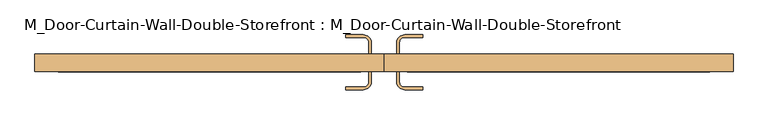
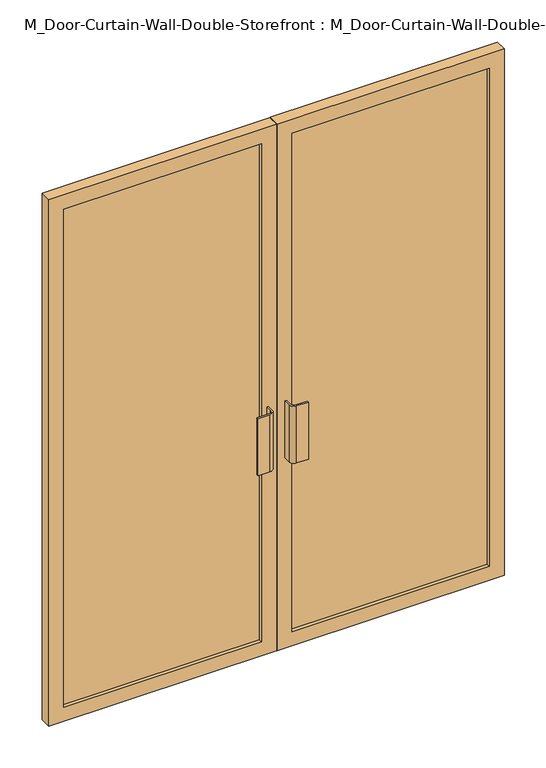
"""IFC4 building model written with IfcOpenShell, lengths in millimetres: door geometry, M_Door-Curtain-Wall-Double-Storefront : M_Door-Curtain-Wall-Double-Storefront."""

from ifc_helpers import new_model, si_unit, point, frame, frame_2d, origin, place, context, project, spatial, polyline, circle_curve, trimmed, segment, composite_curve, outline, extrude, source, transform, mapped, element, save


def m_door_curtain_wall_double_storefront_m_door_curtain_wall_1244dbcd(model_context):
    return source(origin(), model_context, "Body", "SweptSolid", [
        extrude(outline(polyline([(2110.0, 0.8168501), (0.0, 0.8168501), (0.0, 863.7581578), (2110.0, 863.7581578), (2110.0, 0.8168501)]), holes=[polyline([(2052.85, 57.9668501), (2052.85, 806.6081578), (57.15, 806.6081578), (57.15, 57.9668501), (2052.85, 57.9668501)])]), frame((0.0, -60.0, 0.0), z_axis=(0.0, 1.0, 0.0), x_axis=(0.0, 0.0, 1.0)), (0.0, 0.0, 1.0), 44.45),
        extrude(outline(polyline([(2110.0, -0.7706499), (2110.0, -863.7581578), (0.0, -863.7581578), (0.0, -0.7706499), (2110.0, -0.7706499)]), holes=[polyline([(2052.85, -806.6081578), (2052.85, -57.9206499), (57.15, -57.9206499), (57.15, -806.6081578), (2052.85, -806.6081578)])]), frame((0.0, -60.0, 0.0), z_axis=(0.0, 1.0, 0.0), x_axis=(0.0, 0.0, 1.0)), (0.0, 0.0, 1.0), 44.45),
        extrude(outline(polyline([(806.6081578, -28.25), (806.6081578, -47.3), (57.9668501, -47.3), (57.9668501, -28.25), (806.6081578, -28.25)])), frame((0.0, 0.0, 57.15), z_axis=(0.0, 0.0, 1.0), x_axis=(1.0, 0.0, 0.0)), (0.0, 0.0, 1.0), 1995.7),
        extrude(outline(polyline([(-57.9206499, -28.25), (-57.9206499, -47.3), (-806.6081578, -47.3), (-806.6081578, -28.25), (-57.9206499, -28.25)])), frame((0.0, 0.0, 57.15), z_axis=(0.0, 0.0, 1.0), x_axis=(1.0, 0.0, 0.0)), (0.0, 0.0, 1.0), 1995.7),
        extrude(outline(composite_curve([segment(polyline([(-31.7268999, 12.7), (-31.7268999, -15.55), (-38.0768999, -15.55), (-38.0768999, 12.7)]), True, "CONTINUOUS"), segment(trimmed(circle_curve(frame_2d((-50.7768999, 12.7)), 12.7), [point((-38.0768999, 12.7))], [point((-50.7768999, 25.4))], True, "CARTESIAN"), True, "CONTINUOUS"), segment(polyline([(-50.7768999, 25.4), (-95.2268999, 25.4), (-95.2268999, 31.75), (-50.7768999, 31.75)]), True, "CONTINUOUS"), segment(trimmed(circle_curve(frame_2d((-50.7768999, 12.7)), 19.05), [point((-50.7768999, 31.75))], [point((-31.7268999, 12.7))], False, "CARTESIAN"), True, "CONTINUOUS")], self_intersect=False)), frame((0.0, 0.0, 762.0), z_axis=(0.0, 0.0, 1.0), x_axis=(1.0, 0.0, 0.0)), (0.0, 0.0, 1.0), 228.6),
        extrude(outline(composite_curve([segment(trimmed(circle_curve(frame_2d((50.8231001, 12.7)), 19.05), [point((31.7731001, 12.7))], [point((50.8231001, 31.75))], False, "CARTESIAN"), True, "CONTINUOUS"), segment(polyline([(50.8231001, 31.75), (95.2731001, 31.75), (95.2731001, 25.4), (50.8231001, 25.4)]), True, "CONTINUOUS"), segment(trimmed(circle_curve(frame_2d((50.8231001, 12.7)), 12.7), [point((50.8231001, 25.4))], [point((38.1231001, 12.7))], True, "CARTESIAN"), True, "CONTINUOUS"), segment(polyline([(38.1231001, 12.7), (38.1231001, -15.55), (31.7731001, -15.55), (31.7731001, 12.7)]), True, "CONTINUOUS")], self_intersect=False)), frame((0.0, 0.0, 762.0), z_axis=(0.0, 0.0, 1.0), x_axis=(1.0, 0.0, 0.0)), (0.0, 0.0, 1.0), 228.6),
        extrude(outline(composite_curve([segment(trimmed(circle_curve(frame_2d((-50.7768999, -85.4)), 19.05), [point((-31.7268999, -85.4))], [point((-50.7768999, -104.45))], False, "CARTESIAN"), True, "CONTINUOUS"), segment(polyline([(-50.7768999, -104.45), (-95.2268999, -104.45), (-95.2268999, -98.1), (-50.7768999, -98.1)]), True, "CONTINUOUS"), segment(trimmed(circle_curve(frame_2d((-50.7768999, -85.4)), 12.7), [point((-50.7768999, -98.1))], [point((-38.0768999, -85.4))], True, "CARTESIAN"), True, "CONTINUOUS"), segment(polyline([(-38.0768999, -85.4), (-38.0768999, -60.0), (-31.7268999, -60.0), (-31.7268999, -85.4)]), True, "CONTINUOUS")], self_intersect=False)), frame((0.0, 0.0, 762.0), z_axis=(0.0, 0.0, 1.0), x_axis=(1.0, 0.0, 0.0)), (0.0, 0.0, 1.0), 228.6),
        extrude(outline(composite_curve([segment(polyline([(31.7731001, -85.4), (31.7731001, -60.0), (38.1231001, -60.0), (38.1231001, -85.4)]), True, "CONTINUOUS"), segment(trimmed(circle_curve(frame_2d((50.8231001, -85.4)), 12.7), [point((38.1231001, -85.4))], [point((50.8231001, -98.1))], True, "CARTESIAN"), True, "CONTINUOUS"), segment(polyline([(50.8231001, -98.1), (95.2731001, -98.1), (95.2731001, -104.45), (50.8231001, -104.45)]), True, "CONTINUOUS"), segment(trimmed(circle_curve(frame_2d((50.8231001, -85.4)), 19.05), [point((50.8231001, -104.45))], [point((31.7731001, -85.4))], False, "CARTESIAN"), True, "CONTINUOUS")], self_intersect=False)), frame((0.0, 0.0, 762.0), z_axis=(0.0, 0.0, 1.0), x_axis=(1.0, 0.0, 0.0)), (0.0, 0.0, 1.0), 228.6),
    ])


if __name__ == "__main__":
    model = new_model("IFC4")
    model_context = context("Model", 3, world=origin())
    ifc_project = project(units=[si_unit("LENGTHUNIT", "METRE", prefix="MILLI")], contexts=[model_context])
    site = spatial("IfcSite", under=ifc_project)
    building = spatial("IfcBuilding", under=site)
    placement = place(None, origin())
    m_door_curtain_wall_double_storefront_m_door_curtain_wall_shape = m_door_curtain_wall_double_storefront_m_door_curtain_wall_1244dbcd(model_context)
    element("IfcDoor", 1, ObjectType="M_Door-Curtain-Wall-Double-Storefront : M_Door-Curtain-Wall-Double-Storefront", at=placement, inside=building, context=model_context, shape_type="MappedRepresentation", body=[
        mapped(m_door_curtain_wall_double_storefront_m_door_curtain_wall_shape, transform((0.0, 0.0, 0.0), x_axis=(1.0, 0.0, 0.0), y_axis=(0.0, 1.0, 0.0), z_axis=(0.0, 0.0, 1.0))),
    ])
    save(model, "model.ifc")
